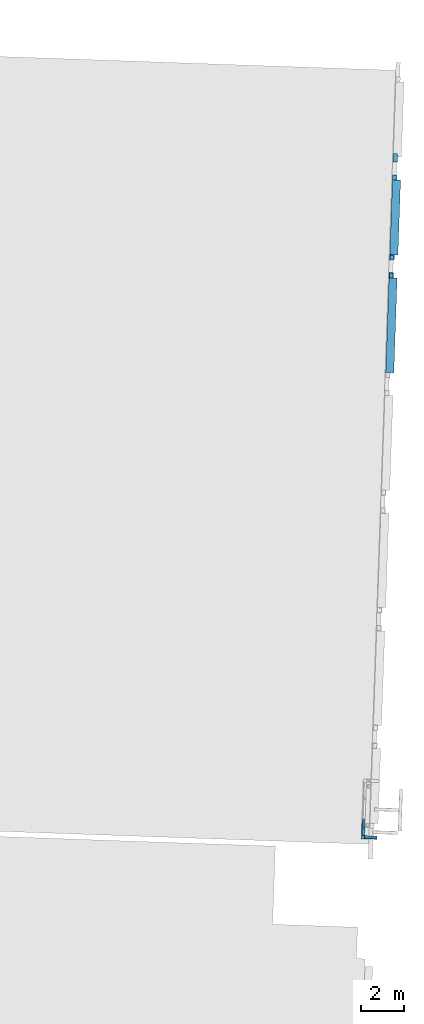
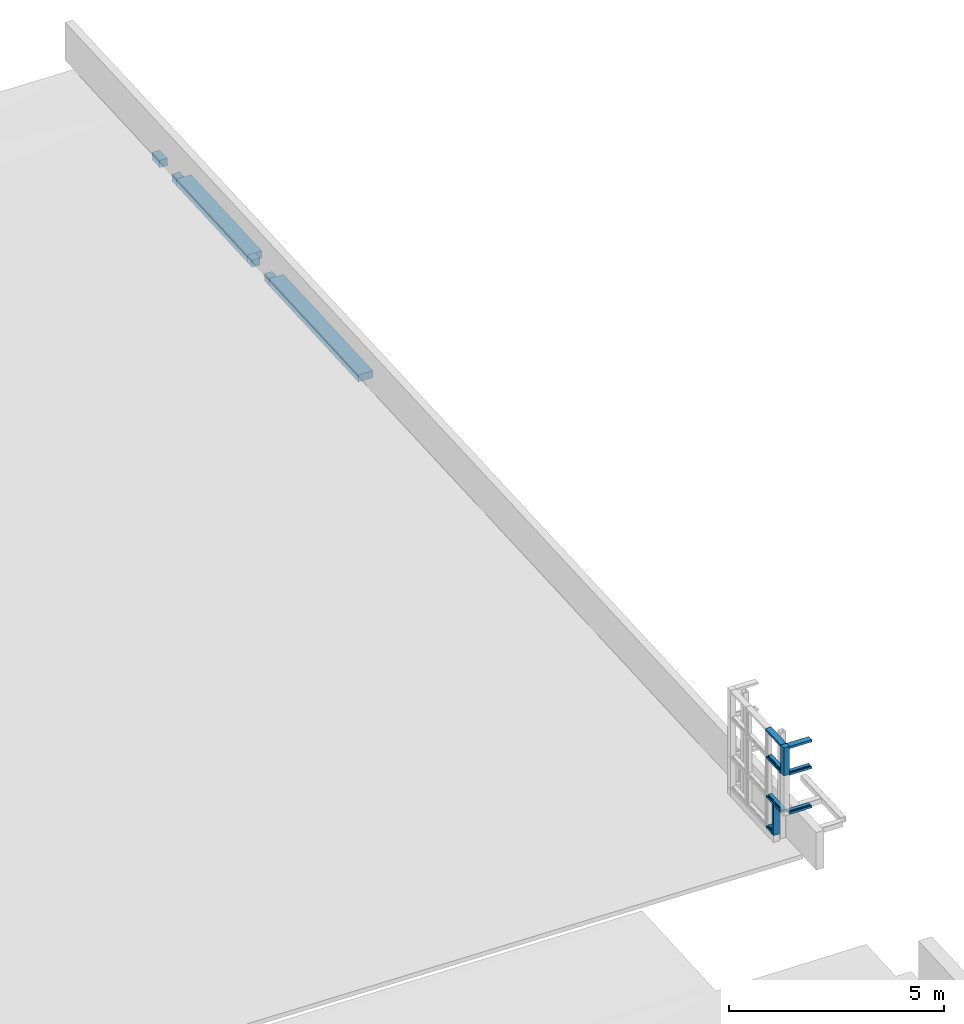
# One storey, part 2 of 8: 9 members, 4 beams, 2 elements without a shape of their own.
"""IFC2X3 building model written with IfcOpenShell, lengths in feet."""

import ifcopenshell
import ifcopenshell.guid

model = None  # the IFC model being written
_history = None  # IfcOwnerHistory: only IFC2X3 demands one
_inside = {}  # id of a spatial element -> (the spatial element, [elements in it])
_under = {}  # id of a project, library or spatial element -> (it, [spatial elements below it])
_declared = {}  # id of a project -> (the project, [libraries it declares])
_typed = {}  # id of a type object -> (the type object, [elements of that type])
_made_of = {}  # id of a material, layer set ... -> (it, [elements and type objects made of it])


def new_model(schema):
    """Start an empty IFC model of exactly this schema.

    Asked for "IFC4X3", IfcOpenShell would pick the latest addendum, in which some entities
    have other attributes; the version numbers below select the first issue.
    IFC2X3 requires an IfcOwnerHistory on every rooted entity: one is made here for all.
    """
    global model, _history
    if schema == "IFC4X3":
        model = ifcopenshell.file(schema_version=(4, 3, 0, 0))
    else:
        model = ifcopenshell.file(schema=schema)
    _inside.clear()
    _under.clear()
    _declared.clear()
    _typed.clear()
    _made_of.clear()
    _history = None
    if model.schema == "IFC2X3":
        org = make("IfcOrganization", Name="unknown")
        user = make(
            "IfcPersonAndOrganization",
            ThePerson=make("IfcPerson", FamilyName="unknown"),
            TheOrganization=org,
        )
        app = make(
            "IfcApplication",
            ApplicationDeveloper=org,
            Version="unknown",
            ApplicationFullName="unknown",
            ApplicationIdentifier="unknown",
        )
        _history = make(
            "IfcOwnerHistory",
            OwningUser=user,
            OwningApplication=app,
            ChangeAction="ADDED",
            CreationDate=0,
        )
    return model


def make(cls, **values):
    """One entity of the class cls with the attributes given. An attribute that is None is left unset."""
    return model.create_entity(
        cls, **{name: value for name, value in values.items() if value is not None}
    )


def entity(cls, *values):
    """Any entity or typed value of the class cls, its attributes in the order of the schema. None: left unset."""
    e = model.create_entity(cls)
    for i, value in enumerate(values):
        if value is not None:
            e[i] = value
    return e


def rooted(cls, **values):
    """An entity with a GlobalId (a new one), such as an element, a storey or a relation."""
    return make(cls, GlobalId=ifcopenshell.guid.new(), OwnerHistory=_history, **values)


def si_unit(unit_type, name, prefix=None):
    """IfcSIUnit, for example si_unit("LENGTHUNIT", "METRE", prefix="MILLI")."""
    return make("IfcSIUnit", UnitType=unit_type, Prefix=prefix, Name=name)


def converted_unit(unit_type, name, factor, base, dimensions=None, offset=None):
    """IfcConversionBasedUnit, such as the inch: factor (a typed value) times the base unit."""
    return make(
        "IfcConversionBasedUnit"
        if offset is None
        else "IfcConversionBasedUnitWithOffset",
        ConversionOffset=offset,
        Dimensions=None
        if dimensions is None
        else entity("IfcDimensionalExponents", *dimensions),
        UnitType=unit_type,
        Name=name,
        ConversionFactor=make(
            "IfcMeasureWithUnit", ValueComponent=factor, UnitComponent=base
        ),
    )


def derived_unit(unit_type, elements):
    """IfcDerivedUnit: a product of units, each with its exponent."""
    return make(
        "IfcDerivedUnit",
        Elements=[
            make("IfcDerivedUnitElement", Unit=unit, Exponent=power)
            for unit, power in elements
        ],
        UnitType=unit_type,
    )


def assignment(units):
    """IfcUnitAssignment: the units of a project."""
    return None if units is None else make("IfcUnitAssignment", Units=units)


def point(xyz):
    """IfcCartesianPoint."""
    return None if xyz is None else make("IfcCartesianPoint", Coordinates=xyz)


def direction(xyz):
    """IfcDirection."""
    return None if xyz is None else make("IfcDirection", DirectionRatios=xyz)


def frame(location, z_axis=None, x_axis=None):
    """IfcAxis2Placement3D, a coordinate frame: its origin and axes. An axis left out is left unset."""
    return make(
        "IfcAxis2Placement3D",
        Location=point(location),
        Axis=direction(z_axis),
        RefDirection=direction(x_axis),
    )


def frame_2d(location, x_axis=None):
    """IfcAxis2Placement2D, a coordinate frame in the plane: its origin and x axis."""
    return make(
        "IfcAxis2Placement2D", Location=point(location), RefDirection=direction(x_axis)
    )


def origin():
    """The frame at (0, 0, 0) with its axes left unset."""
    return frame((0.0, 0.0, 0.0))


def origin_2d_with_axis():
    """The frame at (0, 0) in the plane with the x axis (1, 0) written out."""
    return frame_2d((0.0, 0.0), x_axis=(1.0, 0.0))


def place(relative_to, where):
    """IfcLocalPlacement: puts the frame where relative to a parent placement (None: the world)."""
    return make(
        "IfcLocalPlacement", PlacementRelTo=relative_to, RelativePlacement=where
    )


def context(
    kind, dimensions, precision=None, world=None, true_north=None, identifier=None
):
    """IfcGeometricRepresentationContext, for example the 3D "Model" context."""
    return make(
        "IfcGeometricRepresentationContext",
        ContextIdentifier=identifier,
        ContextType=kind,
        CoordinateSpaceDimension=dimensions,
        Precision=precision,
        WorldCoordinateSystem=world,
        TrueNorth=true_north,
    )


def subcontext(parent, identifier, kind, view, scale=None):
    """IfcGeometricRepresentationSubContext, for example "Body" below "Model"."""
    return make(
        "IfcGeometricRepresentationSubContext",
        ContextIdentifier=identifier,
        ContextType=kind,
        ParentContext=parent,
        TargetScale=scale,
        TargetView=view,
    )


def project(units=None, contexts=None):
    """IfcProject with its units and contexts."""
    return rooted(
        "IfcProject",
        Name="project",
        RepresentationContexts=contexts,
        UnitsInContext=assignment(units),
    )


def spatial(cls, under=None, at=None, **own):
    """A site, building, storey or space (cls), placed at a placement, below another one or the project."""
    s = rooted(cls, ObjectPlacement=at, **own)
    if under is not None:
        _under.setdefault(under.id(), (under, []))[1].append(s)
    return s


def polyline(points):
    """IfcPolyline through the points."""
    return make("IfcPolyline", Points=[point(p) for p in points])


def profile(cls, at=None, kind="AREA", **sizes):
    """A parametric profile (cls). Its sizes go by their IFC names, for example OverallWidth=200.0."""
    return make(cls, ProfileType=kind, Position=at, **sizes)


def rectangle(**sizes):
    """IfcRectangleProfileDef."""
    return profile("IfcRectangleProfileDef", **sizes)


def outline(outer, holes=None, kind="AREA"):
    """IfcArbitraryClosedProfileDef: a profile drawn as a closed curve; with holes, ...WithVoids."""
    if holes is None:
        return make("IfcArbitraryClosedProfileDef", ProfileType=kind, OuterCurve=outer)
    return make(
        "IfcArbitraryProfileDefWithVoids",
        ProfileType=kind,
        OuterCurve=outer,
        InnerCurves=holes,
    )


def extrude(swept, where, along, depth):
    """IfcExtrudedAreaSolid: the profile swept, set in the frame where, extruded along a direction by depth."""
    return make(
        "IfcExtrudedAreaSolid",
        SweptArea=swept,
        Position=where,
        ExtrudedDirection=direction(along),
        Depth=depth,
    )


def shape(context_of_items, identifier, shape_type, items):
    """IfcShapeRepresentation: the items that make up one representation, for example the "Body"."""
    return make(
        "IfcShapeRepresentation",
        ContextOfItems=context_of_items,
        RepresentationIdentifier=identifier,
        RepresentationType=shape_type,
        Items=items,
    )


def material(Name=None, Category=None):
    """IfcMaterial."""
    return make("IfcMaterial", Name=Name, Category=Category)


def made_of(thing, what):
    """Note that an element or type object is made of a material, layer set ...; save() writes the relation."""
    if what is not None:
        _made_of.setdefault(what.id(), (what, []))[1].append(thing)
    return thing


def type_object(cls, material=None, **own):
    """A type object (cls), such as IfcWallType, which elements share."""
    return made_of(rooted(cls, **own), material)


def element(
    cls,
    number,
    at=None,
    inside=None,
    cuts=None,
    type_object=None,
    material=None,
    context=None,
    identifier="Body",
    shape_type=None,
    held_by="IfcProductDefinitionShape",
    body=None,
    shapes=None,
    **own,
):
    """One element of the class cls, such as IfcWall. Its Tag is "e" and its number.

    at: its placement. inside: the storey or other place that contains it. cuts: it is an
    opening in that element (IfcRelVoidsElement). A single representation is given by context,
    identifier, shape_type and body (its items); several are given by shapes. held_by: the class
    of the entity that holds the representations. save() writes the other relations.
    """
    e = rooted(cls, Tag="e%d" % number, ObjectPlacement=at, **own)
    if body is not None:
        shapes = [shape(context, identifier, shape_type, body)]
    if shapes is not None:
        e.Representation = make(held_by, Representations=shapes)
    if inside is not None:
        _inside.setdefault(inside.id(), (inside, []))[1].append(e)
    if cuts is not None:
        rooted(
            "IfcRelVoidsElement", RelatingBuildingElement=cuts, RelatedOpeningElement=e
        )
    if type_object is not None:
        _typed.setdefault(type_object.id(), (type_object, []))[1].append(e)
    return made_of(e, material)


def aggregate(whole, parts):
    """IfcRelAggregates: a whole, such as a stair, and the parts it consists of."""
    return rooted("IfcRelAggregates", RelatingObject=whole, RelatedObjects=parts)


def save(model, path):
    """Write the relations noted so far, then the file.

    IfcRelAggregates (storeys below a building ...), IfcRelContainedInSpatialStructure (elements
    in a storey), IfcRelDefinesByType, IfcRelAssociatesMaterial and IfcRelDeclares: one each for
    every whole, place, type object, material and project.
    """
    for whole, parts in _under.values():
        aggregate(whole, parts)
    for where, things in _inside.values():
        rooted(
            "IfcRelContainedInSpatialStructure",
            RelatedElements=things,
            RelatingStructure=where,
        )
    for kind, things in _typed.values():
        rooted("IfcRelDefinesByType", RelatedObjects=things, RelatingType=kind)
    for what, things in _made_of.values():
        rooted("IfcRelAssociatesMaterial", RelatedObjects=things, RelatingMaterial=what)
    for by, libraries in _declared.values():
        rooted("IfcRelDeclares", RelatingContext=by, RelatedDefinitions=libraries)
    model.write(path)


model = new_model("IFC2X3")

# Units and contexts
model_context = context("Model", 3, precision=0.0001, world=origin(), true_north=direction((0.999390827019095, 0.0348994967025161)))
body_context = subcontext(model_context, "Body", "Model", "MODEL_VIEW")
ifc_project = project(units=[converted_unit("LENGTHUNIT", "FOOT", entity("IfcRatioMeasure", 0.3048), si_unit("LENGTHUNIT", "METRE"), dimensions=[1, 0, 0, 0, 0, 0, 0]), converted_unit("AREAUNIT", "SQUARE FOOT", entity("IfcRatioMeasure", 0.09290304), si_unit("AREAUNIT", "SQUARE_METRE"), dimensions=[2, 0, 0, 0, 0, 0, 0]), converted_unit("VOLUMEUNIT", "CUBIC FOOT", entity("IfcRatioMeasure", 0.028316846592), si_unit("VOLUMEUNIT", "CUBIC_METRE"), dimensions=[3, 0, 0, 0, 0, 0, 0]), converted_unit("PLANEANGLEUNIT", "DEGREE", entity("IfcRatioMeasure", 0.0174532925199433), si_unit("PLANEANGLEUNIT", "RADIAN"), dimensions=[0, 0, 0, 0, 0, 0, 0]), si_unit("MASSUNIT", "GRAM", prefix="KILO"), si_unit("TIMEUNIT", "SECOND"), si_unit("FREQUENCYUNIT", "HERTZ"), si_unit("THERMODYNAMICTEMPERATUREUNIT", "DEGREE_CELSIUS"), derived_unit("THERMALTRANSMITTANCEUNIT", [(si_unit("MASSUNIT", "GRAM", prefix="KILO"), 1), (si_unit("THERMODYNAMICTEMPERATUREUNIT", "KELVIN"), -1), (si_unit("TIMEUNIT", "SECOND"), -3)]), derived_unit("VOLUMETRICFLOWRATEUNIT", [(si_unit("LENGTHUNIT", "METRE"), 3), (si_unit("TIMEUNIT", "SECOND"), -1)]), si_unit("ELECTRICCURRENTUNIT", "AMPERE"), si_unit("ELECTRICVOLTAGEUNIT", "VOLT"), si_unit("POWERUNIT", "WATT"), si_unit("FORCEUNIT", "NEWTON"), si_unit("ILLUMINANCEUNIT", "LUX"), si_unit("LUMINOUSFLUXUNIT", "LUMEN"), si_unit("LUMINOUSINTENSITYUNIT", "CANDELA"), derived_unit("USERDEFINED", [(si_unit("MASSUNIT", "GRAM", prefix="KILO"), -1), (si_unit("LENGTHUNIT", "METRE"), -2), (si_unit("TIMEUNIT", "SECOND"), 3), (si_unit("LUMINOUSFLUXUNIT", "LUMEN"), 1)]), derived_unit("LINEARVELOCITYUNIT", [(si_unit("LENGTHUNIT", "METRE"), 1), (si_unit("TIMEUNIT", "SECOND"), -1)]), si_unit("PRESSUREUNIT", "PASCAL"), derived_unit("USERDEFINED", [(si_unit("LENGTHUNIT", "METRE"), -2), (si_unit("MASSUNIT", "GRAM", prefix="KILO"), 1), (si_unit("TIMEUNIT", "SECOND"), -2)])], contexts=[model_context])

# Site, building, storey
site_placement = place(None, frame((892.518771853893, 322.38689265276, 0.00393700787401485), z_axis=(0.0, 0.0, 1.0), x_axis=(0.0348994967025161, 0.999390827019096, 0.0)))
site = spatial("IfcSite", under=ifc_project, at=site_placement, Name="Default", CompositionType="ELEMENT")
building_placement = place(site_placement, origin())
building = spatial("IfcBuilding", under=site, at=building_placement, CompositionType="ELEMENT")
storey_placement = place(building_placement, frame((0.0, 0.0, 607.0)))
storey = spatial("IfcBuildingStorey", under=building, at=storey_placement, Name="Existing Garage - Roof Level", CompositionType="ELEMENT", Elevation=607.0)

# Beams
ifc_material_1 = material(Name="Concrete - Cast-in-Place Concrete")
beam_1_placement = place(storey_placement, frame((176.677293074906, 235.805620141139, 0.0)))
element("IfcBeam", 1, at=beam_1_placement, inside=storey, material=ifc_material_1, Name="Concrete-Rectangular Beam:8\" x 15\"w", ObjectType="Concrete-Rectangular Beam:8\" x 15\"w", context=body_context, shape_type="SweptSolid", body=[
    extrude(rectangle(XDim=0.666666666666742, YDim=1.25000000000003, at=frame_2d((0.0, 7.105427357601e-14), x_axis=(1.0, 0.0))), frame((0.0, 0.0, -0.333333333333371), z_axis=(1.0, 0.0, 0.0), x_axis=(0.0, 0.0, -1.0)), (0.0, 0.0, 1.0), 14.5),
])
beam_2_placement = place(storey_placement, frame((191.177293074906, 236.097286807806, 0.0)))
element("IfcBeam", 2, at=beam_2_placement, inside=storey, material=ifc_material_1, Name="Concrete-Rectangular Beam:8\" x 8\"w", ObjectType="Concrete-Rectangular Beam:8\" x 8\"w", context=body_context, shape_type="SweptSolid", body=[
    extrude(rectangle(XDim=0.666666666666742, YDim=0.666666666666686, at=origin_2d_with_axis()), frame((2.7499999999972, 0.0, -0.333333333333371), z_axis=(1.0, 0.0, 0.0), x_axis=(0.0, 0.0, -1.0)), (0.0, 0.0, 1.0), 0.750000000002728),
    extrude(rectangle(XDim=0.666666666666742, YDim=0.666666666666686, at=frame_2d((0.0, 0.0), x_axis=(0.0, 1.0))), frame((0.0, 0.0, -0.333333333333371), z_axis=(1.0, 0.0, 0.0), x_axis=(0.0, -1.0, 0.0)), (0.0, 0.0, 1.0), 0.749999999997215),
])
beam_3_placement = place(storey_placement, frame((194.677293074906, 235.805620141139, 0.0)))
element("IfcBeam", 3, at=beam_3_placement, inside=storey, material=ifc_material_1, Name="Concrete-Rectangular Beam:8\" x 15\"w", ObjectType="Concrete-Rectangular Beam:8\" x 15\"w", context=body_context, shape_type="SweptSolid", body=[
    extrude(rectangle(XDim=0.666666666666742, YDim=1.25, at=frame_2d((0.0, 2.8421709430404e-14), x_axis=(1.0, 0.0))), frame((0.0, 0.0, -0.333333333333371), z_axis=(1.0, 0.0, 0.0), x_axis=(0.0, 0.0, -1.0)), (0.0, 0.0, 1.0), 11.4999999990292),
])
beam_4_placement = place(storey_placement, frame((206.177293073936, 236.097286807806, 0.0)))
element("IfcBeam", 4, at=beam_4_placement, inside=storey, material=ifc_material_1, Name="Concrete-Rectangular Beam:8\" x 8\"w", ObjectType="Concrete-Rectangular Beam:8\" x 8\"w", context=body_context, shape_type="SweptSolid", body=[
    extrude(rectangle(XDim=0.666666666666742, YDim=0.666666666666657, at=frame_2d((0.0, -1.4210854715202e-14), x_axis=(1.0, 0.0))), frame((2.74999999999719, 0.0, -0.333333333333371), z_axis=(1.0, 0.0, 0.0), x_axis=(0.0, 0.0, -1.0)), (0.0, 0.0, 1.0), 1.2500000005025),
    extrude(rectangle(XDim=0.666666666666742, YDim=0.666666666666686, at=frame_2d((0.0, 0.0), x_axis=(0.0, 1.0))), frame((0.0, 0.0, -0.333333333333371), z_axis=(1.0, 0.0, 0.0), x_axis=(0.0, -1.0, 0.0)), (0.0, 0.0, 1.0), 0.749999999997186),
])

# Curtain wall, members
curtain_wall_type = type_object("IfcCurtainWallType", Name="Curtain Wall:(Existing) Curtainwall - Blank", PredefinedType="NOTDEFINED")
curtain_wall_1_placement = place(storey_placement, frame((0.0, 0.0, -607.0)))
curtain_wall_1 = element("IfcCurtainWall", 5, at=curtain_wall_1_placement, inside=storey, type_object=curtain_wall_type, Name="Curtain Wall:(Existing) Curtainwall - Blank", ObjectType="Curtain Wall:(Existing) Curtainwall - Blank")
ifc_material_2 = material(Name="Metal - Aluminum")
member_1_placement = place(curtain_wall_1_placement, frame((0.0, 0.0, 607.0)))
member_1 = element("IfcMember", 6, at=member_1_placement, material=ifc_material_2, Name="Curtain Wall:(Existing) Curtainwall - Blank", ObjectType="Curtain Wall:(Existing) Curtainwall - Blank", context=body_context, shape_type="SweptSolid", body=[
    extrude(outline(polyline([(-0.13671875, -0.1875), (0.0716145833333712, -0.1875), (0.0716145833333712, -0.125), (-0.00651041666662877, -0.125), (-0.00651041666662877, 0.0), (0.0716145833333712, 0.0), (0.0716145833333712, 0.3125), (-0.13671875, 0.3125), (-0.13671875, -0.1875)])), frame((105.448126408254, 237.18062014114, 9.69661458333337), z_axis=(0.0, -1.0, 0.0), x_axis=(0.0, 0.0, -1.0)), (0.0, 0.0, 1.0), 1.91666666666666),
])
member_2_placement = place(curtain_wall_1_placement, frame((0.0, 0.0, 607.0)))
member_2 = element("IfcMember", 7, at=member_2_placement, material=ifc_material_2, Name="Curtain Wall:(Existing) Curtainwall - Blank", ObjectType="Curtain Wall:(Existing) Curtainwall - Blank", context=body_context, shape_type="SweptSolid", body=[
    extrude(outline(polyline([(-0.0716145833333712, -0.3125), (0.13671875, -0.3125), (0.13671875, 0.1875), (-0.0716145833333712, 0.1875), (-0.0716145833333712, 0.125), (0.00651041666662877, 0.125), (0.00651041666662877, 0.0), (-0.0716145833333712, 0.0), (-0.0716145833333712, -0.3125)])), frame((105.448126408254, 235.263953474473, 3.63671875), z_axis=(0.0, 1.0, 0.0), x_axis=(0.0, 0.0, -1.0)), (0.0, 0.0, 1.0), 1.91666666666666),
])
member_3_placement = place(curtain_wall_1_placement, frame((0.0, 0.0, 607.0)))
member_3 = element("IfcMember", 8, at=member_3_placement, material=ifc_material_2, Name="Curtain Wall:(Existing) Curtainwall - Blank", ObjectType="Curtain Wall:(Existing) Curtainwall - Blank", context=body_context, shape_type="SweptSolid", body=[
    extrude(rectangle(XDim=0.5, YDim=0.5, at=origin_2d_with_axis()), frame((105.510626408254, 237.43062014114, 7.25), z_axis=(0.0, 0.0, 1.0), x_axis=(-1.0, 0.0, 0.0)), (0.0, 0.0, 1.0), 2.58333333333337),
])
member_4_placement = place(curtain_wall_1_placement, frame((0.0, 0.0, 607.0)))
member_4 = element("IfcMember", 9, at=member_4_placement, material=ifc_material_2, Name="Curtain Wall:(Existing) Curtainwall - Blank", ObjectType="Curtain Wall:(Existing) Curtainwall - Blank", context=body_context, shape_type="SweptSolid", body=[
    extrude(outline(polyline([(-0.104166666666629, -0.166666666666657), (0.104166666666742, -0.166666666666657), (0.104166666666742, -0.104166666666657), (0.0260416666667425, -0.104166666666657), (0.0260416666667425, 0.0208333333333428), (0.104166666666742, 0.0208333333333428), (0.104166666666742, 0.333333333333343), (-0.104166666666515, 0.333333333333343), (-0.104166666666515, 0.0208333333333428), (-0.0260416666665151, 0.0208333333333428), (-0.0260416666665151, -0.104166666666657), (-0.104166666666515, -0.104166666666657), (-0.104166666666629, -0.166666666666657)])), frame((105.427293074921, 237.18062014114, 7.25000000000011), z_axis=(0.0, -1.0, 0.0), x_axis=(0.0, 0.0, -1.0)), (0.0, 0.0, 1.0), 1.91666666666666),
])
aggregate(curtain_wall_1, [member_1, member_2, member_3, member_4])

curtain_wall_2_placement = place(storey_placement, frame((0.0, 0.0, -607.0)))
curtain_wall_2 = element("IfcCurtainWall", 10, at=curtain_wall_2_placement, inside=storey, type_object=curtain_wall_type, Name="Curtain Wall:(Existing) Curtainwall - Blank", ObjectType="Curtain Wall:(Existing) Curtainwall - Blank")
member_5_placement = place(curtain_wall_2_placement, frame((0.0, 0.0, 607.0)))
member_5 = element("IfcMember", 11, at=member_5_placement, material=ifc_material_2, Name="Curtain Wall:(Existing) Curtainwall - Blank", ObjectType="Curtain Wall:(Existing) Curtainwall - Blank", context=body_context, shape_type="SweptSolid", body=[
    extrude(outline(polyline([(-0.104166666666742, -0.333333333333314), (0.104166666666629, -0.333333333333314), (0.104166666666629, -0.0208333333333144), (0.0260416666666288, -0.0208333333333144), (0.0260416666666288, 0.104166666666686), (0.104166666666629, 0.104166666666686), (0.104166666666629, 0.166666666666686), (-0.104166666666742, 0.166666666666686), (-0.104166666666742, 0.104166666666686), (-0.0260416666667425, 0.104166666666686), (-0.0260416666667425, -0.0208333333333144), (-0.104166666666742, -0.0208333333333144), (-0.104166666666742, -0.333333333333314)])), frame((107.135626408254, 237.513953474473, 0.770833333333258), z_axis=(1.0, 0.0, 0.0), x_axis=(0.0, 0.0, -1.0)), (0.0, 0.0, 1.0), 1.00000186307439),
])
member_6_placement = place(curtain_wall_2_placement, frame((0.0, 0.0, 607.0)))
member_6 = element("IfcMember", 12, at=member_6_placement, material=ifc_material_2, Name="Curtain Wall:(Existing) Curtainwall - Blank", ObjectType="Curtain Wall:(Existing) Curtainwall - Blank", context=body_context, shape_type="SweptSolid", body=[
    extrude(outline(polyline([(-0.0716145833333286, -0.312499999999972), (0.13671875, -0.312499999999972), (0.13671875, 0.187500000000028), (-0.0716145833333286, 0.187500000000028), (-0.0716145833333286, 0.125000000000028), (0.0065104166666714, 0.125000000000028), (0.0065104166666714, 0.0), (-0.0716145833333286, 0.0), (-0.0716145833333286, -0.312499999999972)])), frame((107.064011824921, 237.49312014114, 3.5), z_axis=(0.0, 0.0, -1.0), x_axis=(-1.0, 0.0, 0.0)), (0.0, 0.0, 1.0), 2.83333333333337),
])
member_7_placement = place(curtain_wall_2_placement, frame((0.0, 0.0, 607.0)))
member_7 = element("IfcMember", 13, at=member_7_placement, material=ifc_material_2, Name="Curtain Wall:(Existing) Curtainwall - Blank", ObjectType="Curtain Wall:(Existing) Curtainwall - Blank", context=body_context, shape_type="SweptSolid", body=[
    extrude(outline(polyline([(-0.104166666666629, -0.166666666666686), (0.104166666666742, -0.166666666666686), (0.104166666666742, -0.104166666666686), (0.0260416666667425, -0.104166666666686), (0.0260416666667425, 0.0208333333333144), (0.104166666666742, 0.0208333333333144), (0.104166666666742, 0.333333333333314), (-0.104166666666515, 0.333333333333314), (-0.104166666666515, 0.0208333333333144), (-0.0260416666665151, 0.0208333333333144), (-0.0260416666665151, -0.104166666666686), (-0.104166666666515, -0.104166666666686), (-0.104166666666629, -0.166666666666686)])), frame((108.135628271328, 237.513953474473, 7.25000000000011), z_axis=(-1.0, 0.0, 0.0), x_axis=(0.0, 0.0, -1.0)), (0.0, 0.0, 1.0), 2.37500186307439),
])
member_8_placement = place(curtain_wall_2_placement, frame((0.0, 0.0, 607.0)))
member_8 = element("IfcMember", 14, at=member_8_placement, material=ifc_material_2, Name="Curtain Wall:(Existing) Curtainwall - Blank", ObjectType="Curtain Wall:(Existing) Curtainwall - Blank", context=body_context, shape_type="SweptSolid", body=[
    extrude(outline(polyline([(-0.0716145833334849, -0.187500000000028), (0.136718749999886, -0.187500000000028), (0.136718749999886, 0.312499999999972), (-0.0716145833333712, 0.312499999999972), (-0.0716145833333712, 0.0), (0.00651041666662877, 0.0), (0.00651041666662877, -0.125000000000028), (-0.0716145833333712, -0.125000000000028), (-0.0716145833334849, -0.187500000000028)])), frame((108.135628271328, 237.49312014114, 3.63671874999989), z_axis=(-1.0, 0.0, 0.0), x_axis=(0.0, 0.0, -1.0)), (0.0, 0.0, 1.0), 2.37500186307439),
])
member_9_placement = place(curtain_wall_2_placement, frame((0.0, 0.0, 607.0)))
member_9 = element("IfcMember", 15, at=member_9_placement, material=ifc_material_2, Name="Curtain Wall:(Existing) Curtainwall - Blank", ObjectType="Curtain Wall:(Existing) Curtainwall - Blank", context=body_context, shape_type="SweptSolid", body=[
    extrude(outline(polyline([(-0.13671875, -0.187500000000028), (0.0716145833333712, -0.187500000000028), (0.0716145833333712, -0.125000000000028), (-0.00651041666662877, -0.125000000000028), (-0.00651041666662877, 0.0), (0.0716145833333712, 0.0), (0.0716145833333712, 0.312499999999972), (-0.13671875, 0.312499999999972), (-0.13671875, -0.187500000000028)])), frame((108.239794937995, 237.49312014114, 9.69661458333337), z_axis=(-1.0, 0.0, 0.0), x_axis=(0.0, 0.0, -1.0)), (0.0, 0.0, 1.0), 2.47916852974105),
])
aggregate(curtain_wall_2, [member_5, member_6, member_7, member_8, member_9])

save(model, "model.ifc")
